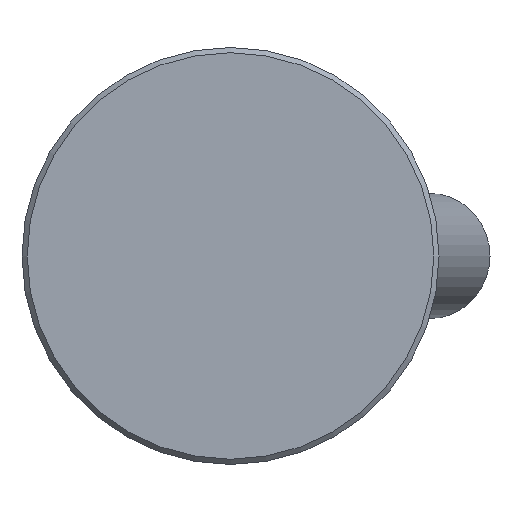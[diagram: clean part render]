
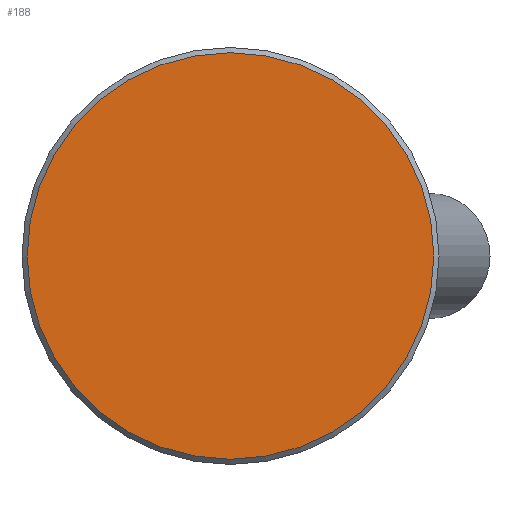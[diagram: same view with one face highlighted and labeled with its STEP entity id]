
A CAD part, front view. The second image highlights one B-rep face of the part: STEP entity #188.
In plain terms, the highlighted planar face has unit normal (0, -1, 0).
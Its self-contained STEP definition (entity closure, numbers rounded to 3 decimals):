
#188 = ADVANCED_FACE( '', ( #368 ), #369, .F. );
#368 = FACE_OUTER_BOUND( '', #564, .T. );
#369 = PLANE( '', #565 );
#564 = EDGE_LOOP( '', ( #862 ) );
#565 = AXIS2_PLACEMENT_3D( '', #863, #864, #865 );
#862 = ORIENTED_EDGE( '', *, *, #1180, .T. );
#863 = CARTESIAN_POINT( '', ( 19.5, 0., 0. ) );
#864 = DIRECTION( '', ( 0., 1., 0. ) );
#865 = DIRECTION( '', ( 0., 0., 1. ) );
#1180 = EDGE_CURVE( '', #1382, #1382, #1383, .T. );
#1382 = VERTEX_POINT( '', #1801 );
#1383 = CIRCLE( '', #1802, 19.5 );
#1801 = CARTESIAN_POINT( '', ( 0., 0., -19.5 ) );
#1802 = AXIS2_PLACEMENT_3D( '', #2041, #2042, #2043 );
#2041 = CARTESIAN_POINT( '', ( 0., 0., 0. ) );
#2042 = DIRECTION( '', ( 0., -1., 0. ) );
#2043 = DIRECTION( '', ( 0., 0., -1. ) );
